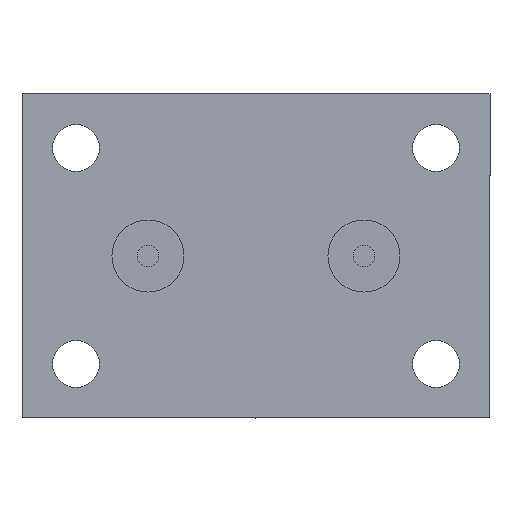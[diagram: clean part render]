
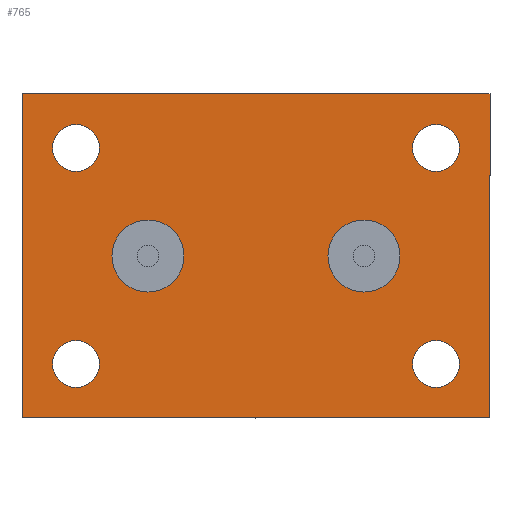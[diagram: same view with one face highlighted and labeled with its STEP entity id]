
A CAD part, front view. The second image highlights one B-rep face of the part: STEP entity #765.
In plain terms, the highlighted planar face has unit normal (0, -1, 0).
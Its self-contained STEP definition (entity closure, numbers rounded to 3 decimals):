
#55 = CARTESIAN_POINT ( 'NONE',  ( -15., 0., 0. ) ) ;
#63 = EDGE_LOOP ( 'NONE', ( #1314, #647 ) ) ;
#64 = ORIENTED_EDGE ( 'NONE', *, *, #623, .F. ) ;
#76 = CIRCLE ( 'NONE', #1090, 3.25 ) ;
#100 = CARTESIAN_POINT ( 'NONE',  ( -25., 0., -15. ) ) ;
#112 = CIRCLE ( 'NONE', #530, 3.25 ) ;
#129 = DIRECTION ( 'NONE',  ( 0., 0., -1. ) ) ;
#131 = FACE_BOUND ( 'NONE', #1246, .T. ) ;
#137 = DIRECTION ( 'NONE',  ( 0., 0., 1. ) ) ;
#141 = CARTESIAN_POINT ( 'NONE',  ( -32.5, 0., 22.5 ) ) ;
#155 = EDGE_CURVE ( 'NONE', #1417, #1292, #975, .T. ) ;
#159 = CARTESIAN_POINT ( 'NONE',  ( -25., 0., -15. ) ) ;
#176 = EDGE_LOOP ( 'NONE', ( #610, #1515 ) ) ;
#178 = DIRECTION ( 'NONE',  ( 0., -1., 0. ) ) ;
#189 = LINE ( 'NONE', #571, #514 ) ;
#196 = CARTESIAN_POINT ( 'NONE',  ( -15., 0., -5. ) ) ;
#197 = CARTESIAN_POINT ( 'NONE',  ( 25., 0., -15. ) ) ;
#211 = EDGE_CURVE ( 'NONE', #607, #1542, #243, .T. ) ;
#237 = AXIS2_PLACEMENT_3D ( 'NONE', #1187, #542, #660 ) ;
#240 = AXIS2_PLACEMENT_3D ( 'NONE', #664, #661, #1435 ) ;
#243 = LINE ( 'NONE', #906, #1185 ) ;
#278 = AXIS2_PLACEMENT_3D ( 'NONE', #159, #1337, #297 ) ;
#288 = AXIS2_PLACEMENT_3D ( 'NONE', #100, #880, #1384 ) ;
#297 = DIRECTION ( 'NONE',  ( 0., 0., -1. ) ) ;
#311 = VERTEX_POINT ( 'NONE', #587 ) ;
#316 = DIRECTION ( 'NONE',  ( 0., 0., -1. ) ) ;
#321 = DIRECTION ( 'NONE',  ( 0., -1., 0. ) ) ;
#323 = EDGE_CURVE ( 'NONE', #1292, #1417, #1164, .T. ) ;
#338 = EDGE_LOOP ( 'NONE', ( #669, #64 ) ) ;
#354 = DIRECTION ( 'NONE',  ( 1., 0., 0. ) ) ;
#378 = EDGE_CURVE ( 'NONE', #1137, #1145, #739, .T. ) ;
#384 = DIRECTION ( 'NONE',  ( 0., 0., -1. ) ) ;
#408 = DIRECTION ( 'NONE',  ( 0., 0., -1. ) ) ;
#412 = CARTESIAN_POINT ( 'NONE',  ( -25., 0., 15. ) ) ;
#426 = CARTESIAN_POINT ( 'NONE',  ( -25., 0., -11.75 ) ) ;
#438 = ORIENTED_EDGE ( 'NONE', *, *, #1018, .F. ) ;
#460 = VECTOR ( 'NONE', #354, 1000. ) ;
#466 = ORIENTED_EDGE ( 'NONE', *, *, #1434, .F. ) ;
#468 = CARTESIAN_POINT ( 'NONE',  ( 25., 0., -11.75 ) ) ;
#469 = CARTESIAN_POINT ( 'NONE',  ( 25., 0., 15. ) ) ;
#470 = AXIS2_PLACEMENT_3D ( 'NONE', #55, #718, #316 ) ;
#492 = CARTESIAN_POINT ( 'NONE',  ( 32.5, 0., -22.5 ) ) ;
#494 = VERTEX_POINT ( 'NONE', #970 ) ;
#514 = VECTOR ( 'NONE', #1069, 1000. ) ;
#524 = ORIENTED_EDGE ( 'NONE', *, *, #886, .F. ) ;
#528 = DIRECTION ( 'NONE',  ( 0., -1., 0. ) ) ;
#530 = AXIS2_PLACEMENT_3D ( 'NONE', #1155, #528, #1532 ) ;
#542 = DIRECTION ( 'NONE',  ( 0., -1., 0. ) ) ;
#546 = PLANE ( 'NONE',  #240 ) ;
#548 = DIRECTION ( 'NONE',  ( 0., 0., -1. ) ) ;
#566 = CIRCLE ( 'NONE', #470, 5. ) ;
#569 = ORIENTED_EDGE ( 'NONE', *, *, #742, .F. ) ;
#571 = CARTESIAN_POINT ( 'NONE',  ( 32.5, 0., -22.5 ) ) ;
#573 = DIRECTION ( 'NONE',  ( 0., 0., -1. ) ) ;
#587 = CARTESIAN_POINT ( 'NONE',  ( 15., 0., -5. ) ) ;
#602 = EDGE_LOOP ( 'NONE', ( #1278, #805 ) ) ;
#607 = VERTEX_POINT ( 'NONE', #872 ) ;
#610 = ORIENTED_EDGE ( 'NONE', *, *, #1367, .F. ) ;
#623 = EDGE_CURVE ( 'NONE', #1145, #1137, #112, .T. ) ;
#631 = FACE_BOUND ( 'NONE', #942, .T. ) ;
#635 = CIRCLE ( 'NONE', #1382, 5. ) ;
#645 = CARTESIAN_POINT ( 'NONE',  ( -32.5, 0., -22.5 ) ) ;
#647 = ORIENTED_EDGE ( 'NONE', *, *, #1273, .F. ) ;
#652 = LINE ( 'NONE', #1521, #460 ) ;
#654 = CARTESIAN_POINT ( 'NONE',  ( 32.5, 0., 22.5 ) ) ;
#660 = DIRECTION ( 'NONE',  ( 0., 0., -1. ) ) ;
#661 = DIRECTION ( 'NONE',  ( 0., 1., 0. ) ) ;
#664 = CARTESIAN_POINT ( 'NONE',  ( 0., 0., 0. ) ) ;
#665 = CARTESIAN_POINT ( 'NONE',  ( 15., 0., 0. ) ) ;
#669 = ORIENTED_EDGE ( 'NONE', *, *, #378, .F. ) ;
#697 = CARTESIAN_POINT ( 'NONE',  ( -25., 0., 15. ) ) ;
#703 = CARTESIAN_POINT ( 'NONE',  ( 15., 0., 5. ) ) ;
#716 = CARTESIAN_POINT ( 'NONE',  ( -25., 0., -18.25 ) ) ;
#718 = DIRECTION ( 'NONE',  ( 0., -1., 0. ) ) ;
#723 = DIRECTION ( 'NONE',  ( 0., 0., -1. ) ) ;
#739 = CIRCLE ( 'NONE', #1078, 3.25 ) ;
#742 = EDGE_CURVE ( 'NONE', #1196, #607, #1150, .T. ) ;
#745 = CIRCLE ( 'NONE', #288, 3.25 ) ;
#754 = FACE_OUTER_BOUND ( 'NONE', #1096, .T. ) ;
#765 = ADVANCED_FACE ( 'NONE', ( #631, #1446, #131, #1619, #1275, #1129, #754 ), #546, .F. ) ;
#767 = VERTEX_POINT ( 'NONE', #788 ) ;
#769 = ORIENTED_EDGE ( 'NONE', *, *, #323, .F. ) ;
#771 = AXIS2_PLACEMENT_3D ( 'NONE', #412, #1186, #384 ) ;
#777 = CIRCLE ( 'NONE', #771, 3.25 ) ;
#788 = CARTESIAN_POINT ( 'NONE',  ( -25., 0., 18.25 ) ) ;
#799 = AXIS2_PLACEMENT_3D ( 'NONE', #1174, #1188, #408 ) ;
#801 = CIRCLE ( 'NONE', #799, 5. ) ;
#805 = ORIENTED_EDGE ( 'NONE', *, *, #1197, .F. ) ;
#872 = CARTESIAN_POINT ( 'NONE',  ( -32.5, 0., -22.5 ) ) ;
#880 = DIRECTION ( 'NONE',  ( 0., -1., 0. ) ) ;
#886 = EDGE_CURVE ( 'NONE', #1542, #1583, #652, .T. ) ;
#905 = CIRCLE ( 'NONE', #278, 3.25 ) ;
#906 = CARTESIAN_POINT ( 'NONE',  ( -32.5, 0., -22.5 ) ) ;
#942 = EDGE_LOOP ( 'NONE', ( #466, #1353 ) ) ;
#970 = CARTESIAN_POINT ( 'NONE',  ( -25., 0., 11.75 ) ) ;
#971 = CARTESIAN_POINT ( 'NONE',  ( -15., 0., 0. ) ) ;
#975 = CIRCLE ( 'NONE', #237, 3.25 ) ;
#1018 = EDGE_CURVE ( 'NONE', #1583, #1196, #189, .T. ) ;
#1049 = AXIS2_PLACEMENT_3D ( 'NONE', #469, #178, #573 ) ;
#1056 = VERTEX_POINT ( 'NONE', #716 ) ;
#1069 = DIRECTION ( 'NONE',  ( 0., 0., -1. ) ) ;
#1070 = CARTESIAN_POINT ( 'NONE',  ( -15., 0., 5. ) ) ;
#1078 = AXIS2_PLACEMENT_3D ( 'NONE', #197, #321, #1226 ) ;
#1084 = EDGE_CURVE ( 'NONE', #1391, #1441, #635, .T. ) ;
#1090 = AXIS2_PLACEMENT_3D ( 'NONE', #697, #1207, #548 ) ;
#1096 = EDGE_LOOP ( 'NONE', ( #438, #524, #1183, #569 ) ) ;
#1129 = FACE_BOUND ( 'NONE', #63, .T. ) ;
#1137 = VERTEX_POINT ( 'NONE', #1374 ) ;
#1145 = VERTEX_POINT ( 'NONE', #468 ) ;
#1150 = LINE ( 'NONE', #645, #1399 ) ;
#1152 = ORIENTED_EDGE ( 'NONE', *, *, #155, .F. ) ;
#1155 = CARTESIAN_POINT ( 'NONE',  ( 25., 0., -15. ) ) ;
#1164 = CIRCLE ( 'NONE', #1049, 3.25 ) ;
#1171 = DIRECTION ( 'NONE',  ( 0., -1., 0. ) ) ;
#1174 = CARTESIAN_POINT ( 'NONE',  ( 15., 0., 0. ) ) ;
#1183 = ORIENTED_EDGE ( 'NONE', *, *, #211, .F. ) ;
#1185 = VECTOR ( 'NONE', #137, 1000. ) ;
#1186 = DIRECTION ( 'NONE',  ( 0., -1., 0. ) ) ;
#1187 = CARTESIAN_POINT ( 'NONE',  ( 25., 0., 15. ) ) ;
#1188 = DIRECTION ( 'NONE',  ( 0., -1., 0. ) ) ;
#1196 = VERTEX_POINT ( 'NONE', #492 ) ;
#1197 = EDGE_CURVE ( 'NONE', #1372, #1056, #745, .T. ) ;
#1207 = DIRECTION ( 'NONE',  ( 0., -1., 0. ) ) ;
#1226 = DIRECTION ( 'NONE',  ( 0., 0., -1. ) ) ;
#1246 = EDGE_LOOP ( 'NONE', ( #769, #1152 ) ) ;
#1272 = EDGE_CURVE ( 'NONE', #1056, #1372, #905, .T. ) ;
#1273 = EDGE_CURVE ( 'NONE', #767, #494, #76, .T. ) ;
#1275 = FACE_BOUND ( 'NONE', #602, .T. ) ;
#1278 = ORIENTED_EDGE ( 'NONE', *, *, #1272, .F. ) ;
#1292 = VERTEX_POINT ( 'NONE', #1317 ) ;
#1314 = ORIENTED_EDGE ( 'NONE', *, *, #1433, .F. ) ;
#1317 = CARTESIAN_POINT ( 'NONE',  ( 25., 0., 11.75 ) ) ;
#1324 = CIRCLE ( 'NONE', #1411, 5. ) ;
#1337 = DIRECTION ( 'NONE',  ( 0., -1., 0. ) ) ;
#1353 = ORIENTED_EDGE ( 'NONE', *, *, #1621, .F. ) ;
#1367 = EDGE_CURVE ( 'NONE', #1441, #1391, #566, .T. ) ;
#1372 = VERTEX_POINT ( 'NONE', #426 ) ;
#1374 = CARTESIAN_POINT ( 'NONE',  ( 25., 0., -18.25 ) ) ;
#1377 = VERTEX_POINT ( 'NONE', #703 ) ;
#1382 = AXIS2_PLACEMENT_3D ( 'NONE', #971, #1609, #723 ) ;
#1384 = DIRECTION ( 'NONE',  ( 0., 0., -1. ) ) ;
#1391 = VERTEX_POINT ( 'NONE', #1070 ) ;
#1399 = VECTOR ( 'NONE', #1540, 1000. ) ;
#1411 = AXIS2_PLACEMENT_3D ( 'NONE', #665, #1171, #129 ) ;
#1417 = VERTEX_POINT ( 'NONE', #1610 ) ;
#1433 = EDGE_CURVE ( 'NONE', #494, #767, #777, .T. ) ;
#1434 = EDGE_CURVE ( 'NONE', #311, #1377, #1324, .T. ) ;
#1435 = DIRECTION ( 'NONE',  ( 0., 0., 1. ) ) ;
#1441 = VERTEX_POINT ( 'NONE', #196 ) ;
#1446 = FACE_BOUND ( 'NONE', #176, .T. ) ;
#1515 = ORIENTED_EDGE ( 'NONE', *, *, #1084, .F. ) ;
#1521 = CARTESIAN_POINT ( 'NONE',  ( -32.5, 0., 22.5 ) ) ;
#1532 = DIRECTION ( 'NONE',  ( 0., 0., -1. ) ) ;
#1540 = DIRECTION ( 'NONE',  ( -1., 0., 0. ) ) ;
#1542 = VERTEX_POINT ( 'NONE', #141 ) ;
#1583 = VERTEX_POINT ( 'NONE', #654 ) ;
#1609 = DIRECTION ( 'NONE',  ( 0., -1., 0. ) ) ;
#1610 = CARTESIAN_POINT ( 'NONE',  ( 25., 0., 18.25 ) ) ;
#1619 = FACE_BOUND ( 'NONE', #338, .T. ) ;
#1621 = EDGE_CURVE ( 'NONE', #1377, #311, #801, .T. ) ;
